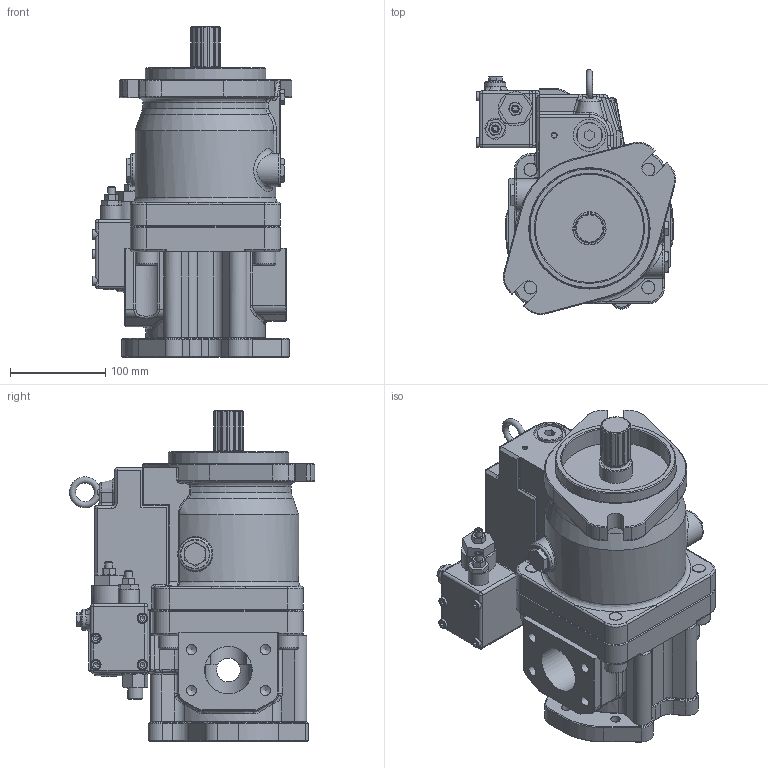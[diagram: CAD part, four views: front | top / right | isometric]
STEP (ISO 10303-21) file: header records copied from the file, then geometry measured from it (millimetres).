
FILE_DESCRIPTION((''),'2;1');
FILE_NAME('J:\Inventor\K3V, M2X\MODEL LIBRARY\K3VL80B 1BBLSM P0.stp','2008-04-28T16:41:18',('mnorman'),(''),'Autodesk Inventor 2008','Autodesk Inventor 2008','');
FILE_SCHEMA(('AUTOMOTIVE_DESIGN { 1 0 10303 214 1 1 1 1 }'));
Length unit declared in the file: millimetre
Products named in the file (1): Part3
Bounding box: 209.73 x 258.06 x 348 mm (x, y, z)
Volume: 6544135.1 mm3; surface area: 449230 mm2
Topology: 8 solids, 35 shells, 1339 faces, 3167 edges, 1919 vertices
Faces by surface type: plane 515, cylinder 293, bspline 253, cone 216, torus 54, sphere 8
Full cylindrical faces by diameter (mm): 6 x5, 6.5 x4, 8 x4, 10 x8, 11 x4, 11.63 x1, 12.489 x2, 16 x12, 21 x1, 22 x2, 24 x4, 25 x1, 26.5 x1, 27 x1, 30 x2, 34 x1, 35 x2, 36 x1, 39 x1, 50 x2, 65 x1, 82.55 x1, 114 x2, 127 x1
Entity records: 50246 total; most frequent: CARTESIAN_POINT 21380, ORIENTED_EDGE 5648, DIRECTION 5595, EDGE_CURVE 2824, AXIS2_PLACEMENT_3D 2202, VERTEX_POINT 1800, EDGE_LOOP 1628, FACE_OUTER_BOUND 1339
